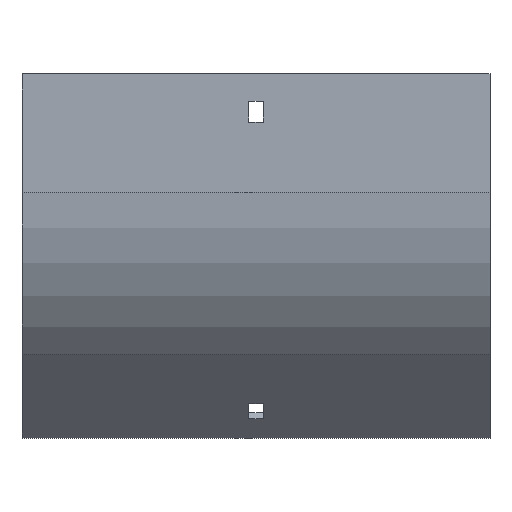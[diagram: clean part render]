
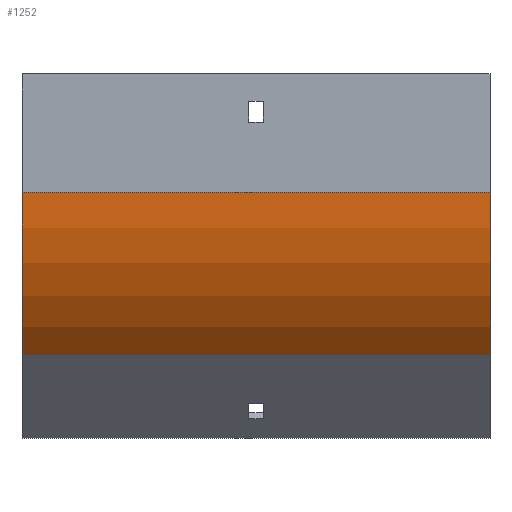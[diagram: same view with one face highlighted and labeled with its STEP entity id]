
A CAD part, front view. The second image highlights one B-rep face of the part: STEP entity #1252.
In plain terms, the highlighted cylindrical face has radius 100 mm (diameter 200 mm), a partial arc.
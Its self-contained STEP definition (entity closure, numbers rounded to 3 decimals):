
#51 = VERTEX_POINT ( 'NONE', #1059 ) ;
#57 = LINE ( 'NONE', #1355, #889 ) ;
#69 = ORIENTED_EDGE ( 'NONE', *, *, #605, .F. ) ;
#96 = DIRECTION ( 'NONE',  ( -1., 0., 0. ) ) ;
#111 = CARTESIAN_POINT ( 'NONE',  ( 102., 48., -51.539 ) ) ;
#126 = ORIENTED_EDGE ( 'NONE', *, *, #518, .T. ) ;
#167 = VERTEX_POINT ( 'NONE', #677 ) ;
#178 = DIRECTION ( 'NONE',  ( 1., 0., 0. ) ) ;
#208 = DIRECTION ( 'NONE',  ( 1., 0., 0. ) ) ;
#218 = LINE ( 'NONE', #1073, #281 ) ;
#281 = VECTOR ( 'NONE', #96, 1000. ) ;
#313 = DIRECTION ( 'NONE',  ( 0., 0., 1. ) ) ;
#330 = CIRCLE ( 'NONE', #1121, 100. ) ;
#417 = AXIS2_PLACEMENT_3D ( 'NONE', #111, #1386, #313 ) ;
#501 = ORIENTED_EDGE ( 'NONE', *, *, #1068, .F. ) ;
#518 = EDGE_CURVE ( 'NONE', #51, #167, #330, .T. ) ;
#531 = FACE_OUTER_BOUND ( 'NONE', #568, .T. ) ;
#537 = CARTESIAN_POINT ( 'NONE',  ( 102., -52., -51.539 ) ) ;
#568 = EDGE_LOOP ( 'NONE', ( #126, #501, #69, #711 ) ) ;
#605 = EDGE_CURVE ( 'NONE', #696, #807, #1120, .T. ) ;
#635 = CARTESIAN_POINT ( 'NONE',  ( 102., 48., -51.539 ) ) ;
#677 = CARTESIAN_POINT ( 'NONE',  ( -102., -22.711, -122.25 ) ) ;
#696 = VERTEX_POINT ( 'NONE', #537 ) ;
#711 = ORIENTED_EDGE ( 'NONE', *, *, #993, .T. ) ;
#725 = CARTESIAN_POINT ( 'NONE',  ( -102., 48., -51.539 ) ) ;
#733 = DIRECTION ( 'NONE',  ( 0., 0., 1. ) ) ;
#807 = VERTEX_POINT ( 'NONE', #1216 ) ;
#889 = VECTOR ( 'NONE', #1133, 1000. ) ;
#964 = DIRECTION ( 'NONE',  ( 0., 0., 1. ) ) ;
#987 = CYLINDRICAL_SURFACE ( 'NONE', #417, 100. ) ;
#993 = EDGE_CURVE ( 'NONE', #696, #51, #57, .T. ) ;
#1054 = AXIS2_PLACEMENT_3D ( 'NONE', #635, #208, #964 ) ;
#1059 = CARTESIAN_POINT ( 'NONE',  ( -102., -52., -51.539 ) ) ;
#1068 = EDGE_CURVE ( 'NONE', #807, #167, #218, .T. ) ;
#1073 = CARTESIAN_POINT ( 'NONE',  ( 102., -22.711, -122.25 ) ) ;
#1120 = CIRCLE ( 'NONE', #1054, 100. ) ;
#1121 = AXIS2_PLACEMENT_3D ( 'NONE', #725, #178, #733 ) ;
#1133 = DIRECTION ( 'NONE',  ( -1., 0., 0. ) ) ;
#1216 = CARTESIAN_POINT ( 'NONE',  ( 102., -22.711, -122.25 ) ) ;
#1252 = ADVANCED_FACE ( 'NONE', ( #531 ), #987, .T. ) ;
#1355 = CARTESIAN_POINT ( 'NONE',  ( 102., -52., -51.539 ) ) ;
#1386 = DIRECTION ( 'NONE',  ( -1., 0., 0. ) ) ;
